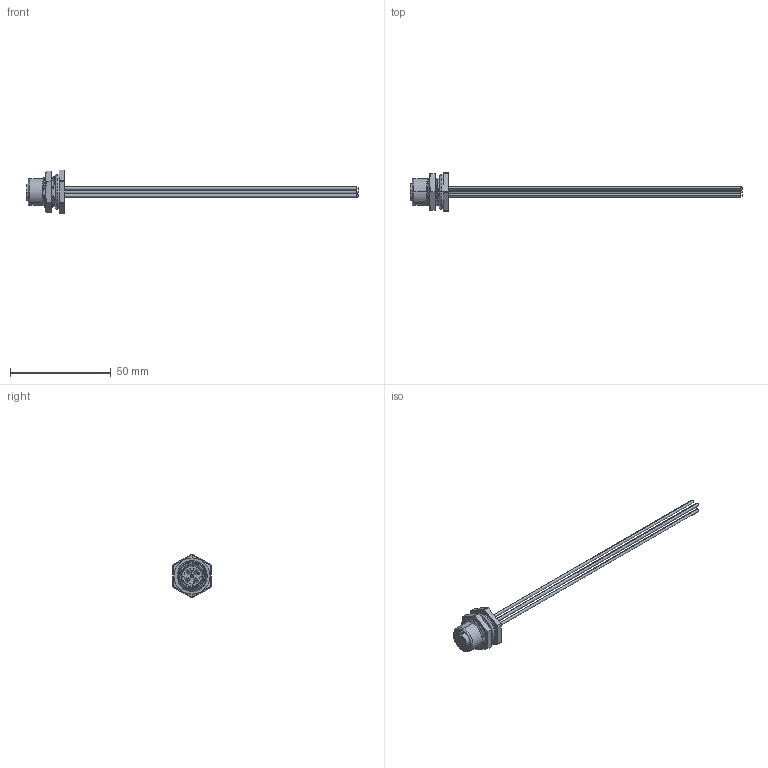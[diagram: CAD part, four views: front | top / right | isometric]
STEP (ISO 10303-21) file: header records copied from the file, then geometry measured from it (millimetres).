
FILE_DESCRIPTION (( 'STEP AP214' ), '1' );
FILE_NAME ('MDC-5FR-BM-ZZ.STEP', '2006-08-17T12:26:22', ( 'Bruce Mistarz' ), ( 'Mencom Corp' ), 'SwSTEP 2.0', 'SolidWorks 2006104', '' );
FILE_SCHEMA (( 'AUTOMOTIVE_DESIGN' ));
Length unit declared in the file: inch
Products named in the file (1): MDC-5FR-BM-ZZ
Bounding box: 164.68 x 19.05 x 21.59 mm (x, y, z)
Surface area: 6506.5 mm2 (no closed solid volume)
Topology: 0 solids, 13 shells, 160 faces, 508 edges, 363 vertices
Faces by surface type: cylinder 75, plane 44, bspline 29, torus 8, cone 4
Entity records: 11431 total; most frequent: CARTESIAN_POINT 5322, ORIENTED_EDGE 835, DIRECTION 730, EDGE_CURVE 508, VERTEX_POINT 363, AXIS2_PLACEMENT_3D 273, VECTOR 184, LINE 184
